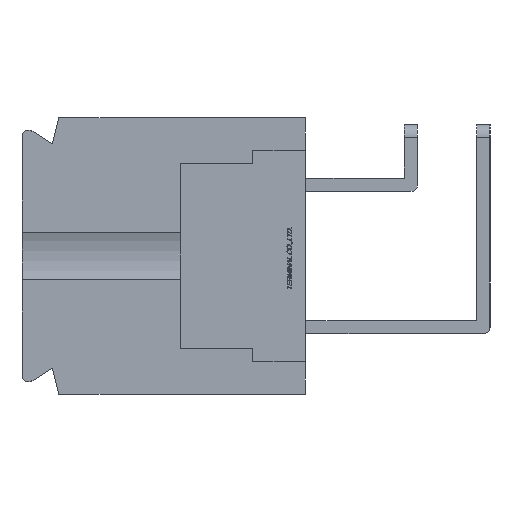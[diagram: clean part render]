
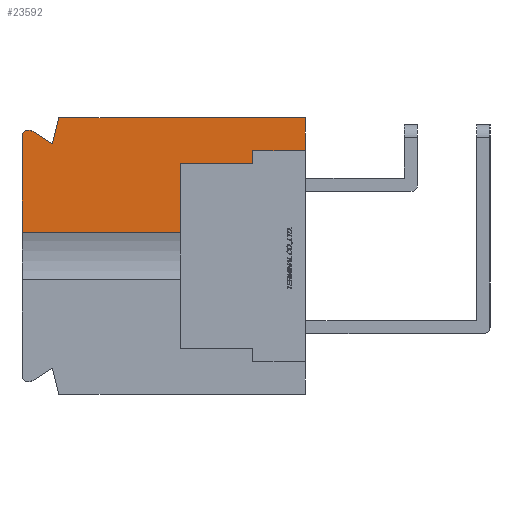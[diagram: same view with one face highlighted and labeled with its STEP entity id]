
A CAD part, left-side view. The second image highlights one B-rep face of the part: STEP entity #23592.
In plain terms, the highlighted planar face has unit normal (-1, 0, 0).
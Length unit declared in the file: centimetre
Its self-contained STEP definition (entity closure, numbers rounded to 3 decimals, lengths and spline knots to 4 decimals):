
#559=CIRCLE('',#39869,0.05);
#1191=VECTOR('',#26162,1.);
#1192=VECTOR('',#26163,1.);
#1193=VECTOR('',#26164,1.);
#1194=VECTOR('',#26165,1.);
#1195=VECTOR('',#26166,1.);
#1196=VECTOR('',#26167,1.);
#1197=VECTOR('',#26168,1.);
#1198=VECTOR('',#26169,1.);
#1199=VECTOR('',#26172,1.);
#1200=VECTOR('',#26173,1.);
#4036=LINE('',#31521,#1191);
#4037=LINE('',#31524,#1192);
#4038=LINE('',#31526,#1193);
#4039=LINE('',#31528,#1194);
#4040=LINE('',#31530,#1195);
#4041=LINE('',#31532,#1196);
#4042=LINE('',#31534,#1197);
#4043=LINE('',#31536,#1198);
#4044=LINE('',#31540,#1199);
#4045=LINE('',#31542,#1200);
#6894=VERTEX_POINT('',#31522);
#6895=VERTEX_POINT('',#31523);
#6896=VERTEX_POINT('',#31525);
#6897=VERTEX_POINT('',#31527);
#6898=VERTEX_POINT('',#31529);
#6899=VERTEX_POINT('',#31531);
#6900=VERTEX_POINT('',#31533);
#6901=VERTEX_POINT('',#31535);
#6902=VERTEX_POINT('',#31537);
#6903=VERTEX_POINT('',#31539);
#6904=VERTEX_POINT('',#31541);
#9531=EDGE_CURVE('',#6894,#6895,#4036,.T.);
#9532=EDGE_CURVE('',#6896,#6894,#4037,.T.);
#9533=EDGE_CURVE('',#6897,#6896,#4038,.T.);
#9534=EDGE_CURVE('',#6898,#6897,#4039,.T.);
#9535=EDGE_CURVE('',#6899,#6898,#4040,.T.);
#9536=EDGE_CURVE('',#6900,#6899,#4041,.T.);
#9537=EDGE_CURVE('',#6901,#6900,#4042,.T.);
#9538=EDGE_CURVE('',#6902,#6901,#4043,.T.);
#9539=EDGE_CURVE('',#6903,#6902,#559,.T.);
#9540=EDGE_CURVE('',#6904,#6903,#4044,.T.);
#9541=EDGE_CURVE('',#6904,#6895,#4045,.T.);
#13337=ORIENTED_EDGE('',*,*,#9531,.F.);
#13338=ORIENTED_EDGE('',*,*,#9532,.F.);
#13339=ORIENTED_EDGE('',*,*,#9533,.F.);
#13340=ORIENTED_EDGE('',*,*,#9534,.F.);
#13341=ORIENTED_EDGE('',*,*,#9535,.F.);
#13342=ORIENTED_EDGE('',*,*,#9536,.F.);
#13343=ORIENTED_EDGE('',*,*,#9537,.F.);
#13344=ORIENTED_EDGE('',*,*,#9538,.F.);
#13345=ORIENTED_EDGE('',*,*,#9539,.F.);
#13346=ORIENTED_EDGE('',*,*,#9540,.F.);
#13347=ORIENTED_EDGE('',*,*,#9541,.T.);
#20566=EDGE_LOOP('',(#13337,#13338,#13339,#13340,#13341,#13342,#13343,#13344,
#13345,#13346,#13347));
#22084=FACE_BOUND('',#20566,.T.);
#23592=ADVANCED_FACE('',(#22084),#24952,.F.);
#24952=PLANE('',#39868);
#26161=DIRECTION('',(1.,0.,0.));
#26162=DIRECTION('',(0.,0.,-1.));
#26163=DIRECTION('',(0.,1.,0.));
#26164=DIRECTION('',(0.,0.,-1.));
#26165=DIRECTION('',(0.,1.,0.));
#26166=DIRECTION('',(0.,0.,-1.));
#26167=DIRECTION('',(0.,-1.,0.));
#26168=DIRECTION('',(0.,-0.243,0.97));
#26169=DIRECTION('',(0.,-0.844,-0.536));
#26170=DIRECTION('',(1.,0.,0.));
#26171=DIRECTION('',(0.,0.,-0.05));
#26172=DIRECTION('',(0.,0.,1.));
#26173=DIRECTION('',(0.,-1.,0.));
#31520=CARTESIAN_POINT('',(-1.1,1.082,0.));
#31521=CARTESIAN_POINT('',(-1.1,0.95,-0.7));
#31522=CARTESIAN_POINT('',(-1.1,0.95,0.7));
#31523=CARTESIAN_POINT('',(-1.1,0.95,0.1809));
#31524=CARTESIAN_POINT('',(-1.1,0.95,0.7));
#31525=CARTESIAN_POINT('',(-1.1,0.4,0.7));
#31526=CARTESIAN_POINT('',(-1.1,0.4,0.7));
#31527=CARTESIAN_POINT('',(-1.1,0.4,0.8));
#31528=CARTESIAN_POINT('',(-1.1,0.4,0.8));
#31529=CARTESIAN_POINT('',(-1.1,0.,0.8));
#31530=CARTESIAN_POINT('',(-1.1,0.,1.05));
#31531=CARTESIAN_POINT('',(-1.1,0.,1.05));
#31532=CARTESIAN_POINT('',(-1.1,1.87,1.05));
#31533=CARTESIAN_POINT('',(-1.1,1.87,1.05));
#31534=CARTESIAN_POINT('',(-1.1,1.92,0.85));
#31535=CARTESIAN_POINT('',(-1.1,1.92,0.85));
#31536=CARTESIAN_POINT('',(-1.1,2.0742,0.9478));
#31537=CARTESIAN_POINT('',(-1.1,2.0742,0.9478));
#31538=CARTESIAN_POINT('',(-1.1,2.1,0.905));
#31539=CARTESIAN_POINT('',(-1.1,2.15,0.905));
#31540=CARTESIAN_POINT('',(-1.1,2.15,-0.905));
#31541=CARTESIAN_POINT('',(-1.1,2.15,0.1809));
#31542=CARTESIAN_POINT('',(-1.1,1.55,0.1809));
#39868=AXIS2_PLACEMENT_3D('',#31520,#26161,$);
#39869=AXIS2_PLACEMENT_3D('',#31538,#26170,#26171);
